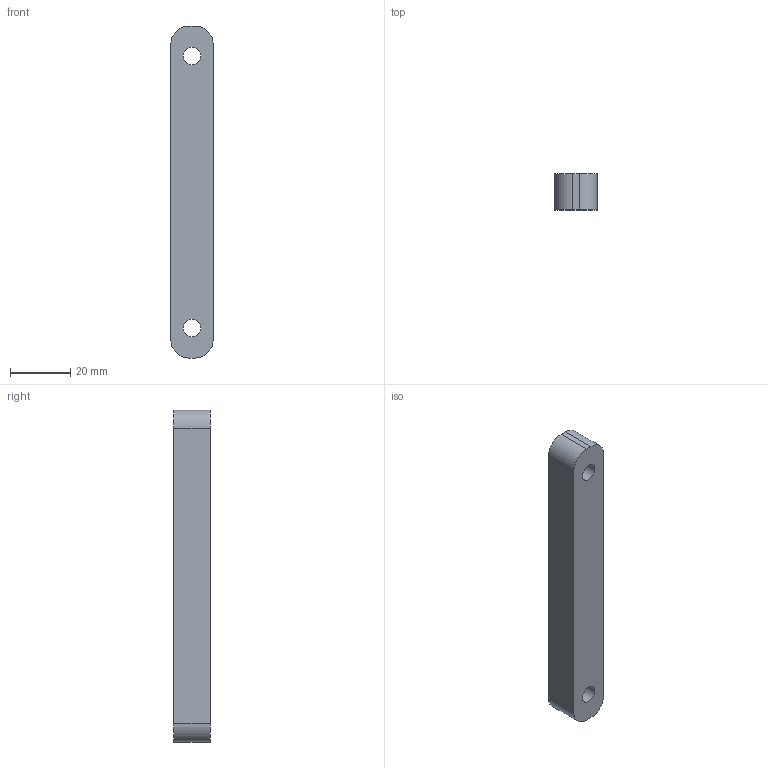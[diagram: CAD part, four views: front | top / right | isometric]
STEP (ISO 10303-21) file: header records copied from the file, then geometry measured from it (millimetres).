
FILE_DESCRIPTION(('FreeCAD Model'),'2;1');
FILE_NAME('Open CASCADE Shape Model','2026-10-14T02:29:05',('FreeCAD'),( 'FreeCAD'),'Open CASCADE STEP processor 7.8','FreeCAD','Unknown');
FILE_SCHEMA(('AUTOMOTIVE_DESIGN { 1 0 10303 214 1 1 1 1 }'));
Length unit declared in the file: millimetre
Products named in the file (1): Open CASCADE STEP translator 7.8 68
Bounding box: 14 x 12 x 110 mm (x, y, z)
Volume: 17475.1 mm3; surface area: 6202.2 mm2
Topology: 1 solids, 1 shells, 12 faces, 30 edges, 20 vertices
Faces by surface type: cylinder 6, plane 6
Full cylindrical faces by diameter (mm): 5.8 x2
Entity records: 384 total; most frequent: DIRECTION 68, CARTESIAN_POINT 63, ORIENTED_EDGE 60, EDGE_CURVE 30, AXIS2_PLACEMENT_3D 25, VERTEX_POINT 20, LINE 18, VECTOR 18
